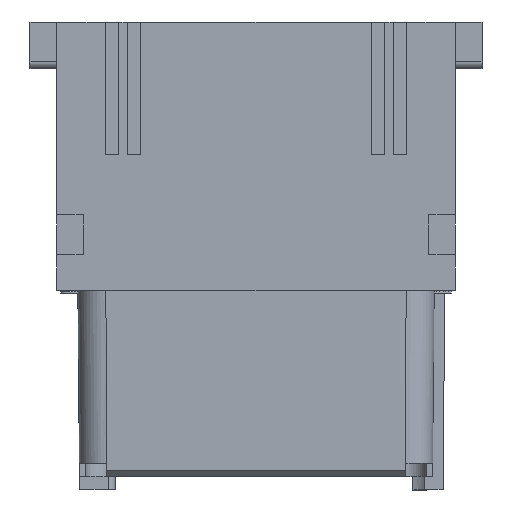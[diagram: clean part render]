
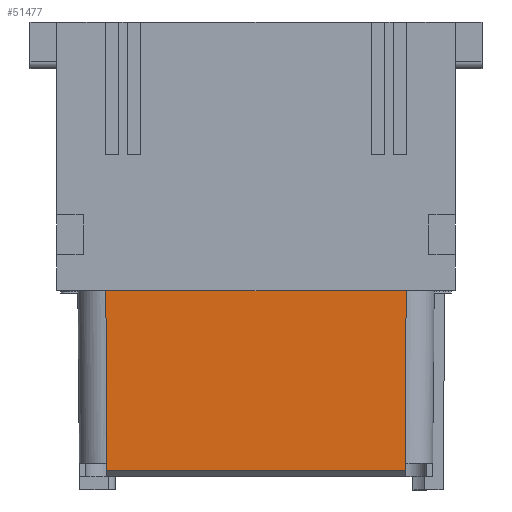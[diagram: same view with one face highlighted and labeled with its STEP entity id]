
A CAD part, left-side view. The second image highlights one B-rep face of the part: STEP entity #51477.
In plain terms, the highlighted planar face has unit normal (-1, 0, -0.009).
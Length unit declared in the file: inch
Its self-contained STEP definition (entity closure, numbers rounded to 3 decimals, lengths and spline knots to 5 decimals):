
#5724 = EDGE_CURVE ( 'NONE', #61420, #61416, #12034, .T. ) ;
#5728 = EDGE_CURVE ( 'NONE', #61416, #61422, #12040, .T. ) ;
#5739 = EDGE_CURVE ( 'NONE', #61422, #61426, #12045, .T. ) ;
#12034 = LINE ( 'NONE', #61731, #12043 ) ;
#12040 = LINE ( 'NONE', #61756, #12044 ) ;
#12043 = VECTOR ( 'NONE', #61753, 39.37008 ) ;
#12044 = VECTOR ( 'NONE', #61759, 39.37008 ) ;
#12045 = LINE ( 'NONE', #61769, #12054 ) ;
#12054 = VECTOR ( 'NONE', #61772, 39.37008 ) ;
#12592 = LINE ( 'NONE', #19265, #12597 ) ;
#12593 = LINE ( 'NONE', #19250, #12599 ) ;
#12597 = VECTOR ( 'NONE', #19268, 39.37008 ) ;
#12599 = VECTOR ( 'NONE', #19253, 39.37008 ) ;
#12604 = LINE ( 'NONE', #19270, #12607 ) ;
#12607 = VECTOR ( 'NONE', #19273, 39.37008 ) ;
#19250 = CARTESIAN_POINT ( 'NONE',  ( 2.3798, 3.08089, -0.32677 ) ) ;
#19253 = DIRECTION ( 'NONE',  ( 0.009, -0.009, -1. ) ) ;
#19265 = CARTESIAN_POINT ( 'NONE',  ( 2.3798, 2.19113, -0.32749 ) ) ;
#19268 = DIRECTION ( 'NONE',  ( 0.009, 0.009, -1. ) ) ;
#19270 = CARTESIAN_POINT ( 'NONE',  ( 2.3798, 2.1587, -0.32677 ) ) ;
#19273 = DIRECTION ( 'NONE',  ( 0., -1., 0. ) ) ;
#23353 = PLANE ( 'NONE',  #60334 ) ;
#23379 = CARTESIAN_POINT ( 'NONE',  ( 2.3799, 3.07892, -0.33858 ) ) ;
#23380 = DIRECTION ( 'NONE',  ( -1., 0., -0.009 ) ) ;
#23382 = DIRECTION ( 'NONE',  ( -0.009, 0., 1. ) ) ;
#23959 = FACE_OUTER_BOUND ( 'NONE', #44908, .T. ) ;
#41622 = EDGE_CURVE ( 'NONE', #56953, #61420, #12593, .T. ) ;
#41629 = EDGE_CURVE ( 'NONE', #56890, #61426, #12592, .T. ) ;
#41632 = EDGE_CURVE ( 'NONE', #56953, #56890, #12604, .T. ) ;
#44908 = EDGE_LOOP ( 'NONE', ( #51010, #51011, #51012, #51013, #51014, #51015 ) ) ;
#45826 = CARTESIAN_POINT ( 'NONE',  ( 2.3798, 2.19112, -0.32677 ) ) ;
#45889 = CARTESIAN_POINT ( 'NONE',  ( 2.3798, 3.08089, -0.32677 ) ) ;
#50636 = CARTESIAN_POINT ( 'NONE',  ( 2.38443, 3.07892, -0.85827 ) ) ;
#50638 = CARTESIAN_POINT ( 'NONE',  ( 2.38177, 3.07892, -0.5527 ) ) ;
#50639 = CARTESIAN_POINT ( 'NONE',  ( 2.38443, 2.19309, -0.85827 ) ) ;
#50641 = CARTESIAN_POINT ( 'NONE',  ( 2.38177, 2.19309, -0.5527 ) ) ;
#51010 = ORIENTED_EDGE ( 'NONE', *, *, #5728, .T. ) ;
#51011 = ORIENTED_EDGE ( 'NONE', *, *, #5739, .T. ) ;
#51012 = ORIENTED_EDGE ( 'NONE', *, *, #41629, .F. ) ;
#51013 = ORIENTED_EDGE ( 'NONE', *, *, #41632, .F. ) ;
#51014 = ORIENTED_EDGE ( 'NONE', *, *, #41622, .T. ) ;
#51015 = ORIENTED_EDGE ( 'NONE', *, *, #5724, .T. ) ;
#51477 = ADVANCED_FACE ( 'NONE', ( #23959 ), #23353, .T. ) ;
#56890 = VERTEX_POINT ( 'NONE', #45826 ) ;
#56953 = VERTEX_POINT ( 'NONE', #45889 ) ;
#60334 = AXIS2_PLACEMENT_3D ( 'NONE', #23379, #23380, #23382 ) ;
#61416 = VERTEX_POINT ( 'NONE', #50636 ) ;
#61420 = VERTEX_POINT ( 'NONE', #50638 ) ;
#61422 = VERTEX_POINT ( 'NONE', #50639 ) ;
#61426 = VERTEX_POINT ( 'NONE', #50641 ) ;
#61731 = CARTESIAN_POINT ( 'NONE',  ( 2.3799, 3.07892, -0.33858 ) ) ;
#61753 = DIRECTION ( 'NONE',  ( 0.009, 0., -1. ) ) ;
#61756 = CARTESIAN_POINT ( 'NONE',  ( 2.38443, 3.07892, -0.85827 ) ) ;
#61759 = DIRECTION ( 'NONE',  ( 0., -1., 0. ) ) ;
#61769 = CARTESIAN_POINT ( 'NONE',  ( 2.3799, 2.19309, -0.33858 ) ) ;
#61772 = DIRECTION ( 'NONE',  ( -0.009, 0., 1. ) ) ;
